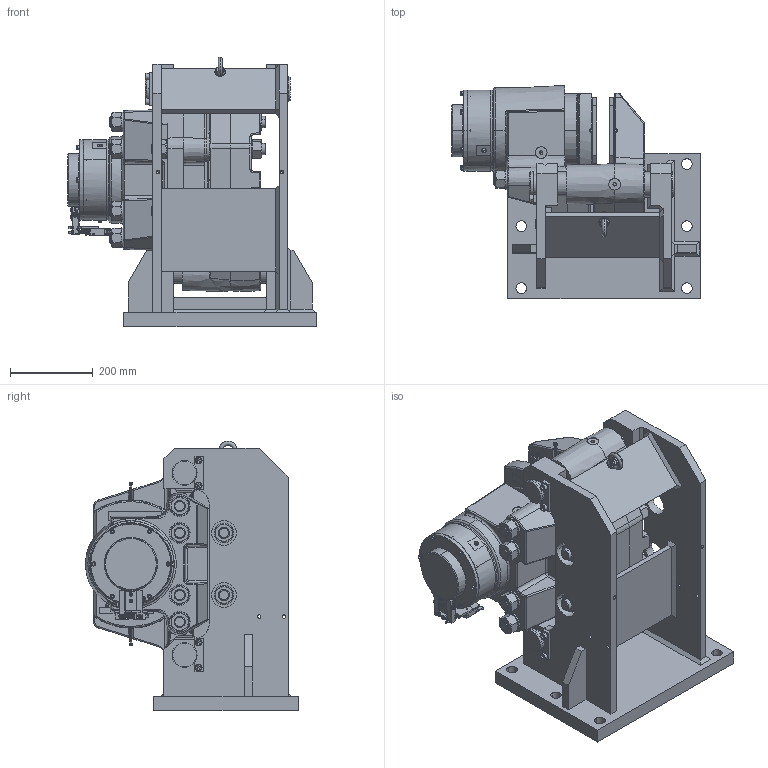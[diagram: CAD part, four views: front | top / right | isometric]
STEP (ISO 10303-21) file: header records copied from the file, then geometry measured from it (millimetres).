
FILE_DESCRIPTION((''),'2;1');
FILE_NAME('HS_145_FHM-270L-H_ASM','2020-11-02T',('BOLS'),(''),'CREO PARAMETRIC BY PTC INC, 2018360','CREO PARAMETRIC BY PTC INC, 2018360','');
FILE_SCHEMA(('CONFIG_CONTROL_DESIGN'));
Products named in the file (3): S190_SUPPORT; S190_BRAKE; HS_145_FHM-270L-H_ASM
Assembly tree (2 placements, depth 2):
  HS_145_FHM-270L-H_ASM
    S190_SUPPORT
    S190_BRAKE
Bounding box: 600.8 x 514.42 x 651.95 mm (x, y, z)
Volume: 38675741.2 mm3; surface area: 3240033 mm2
Topology: 6 solids, 75 shells, 3081 faces, 7491 edges, 4639 vertices
Faces by surface type: plane 1185, cylinder 930, cone 612, torus 196, bspline 121, sphere 37
Entity records: 152429 total; most frequent: CARTESIAN_POINT 36539, DIRECTION 15348, ORIENTED_EDGE 14718, PRESENTATION_STYLE_ASSIGNMENT 10446, STYLED_ITEM 10446, CURVE_STYLE 7359, EDGE_CURVE 7359, AXIS2_PLACEMENT_3D 6049
